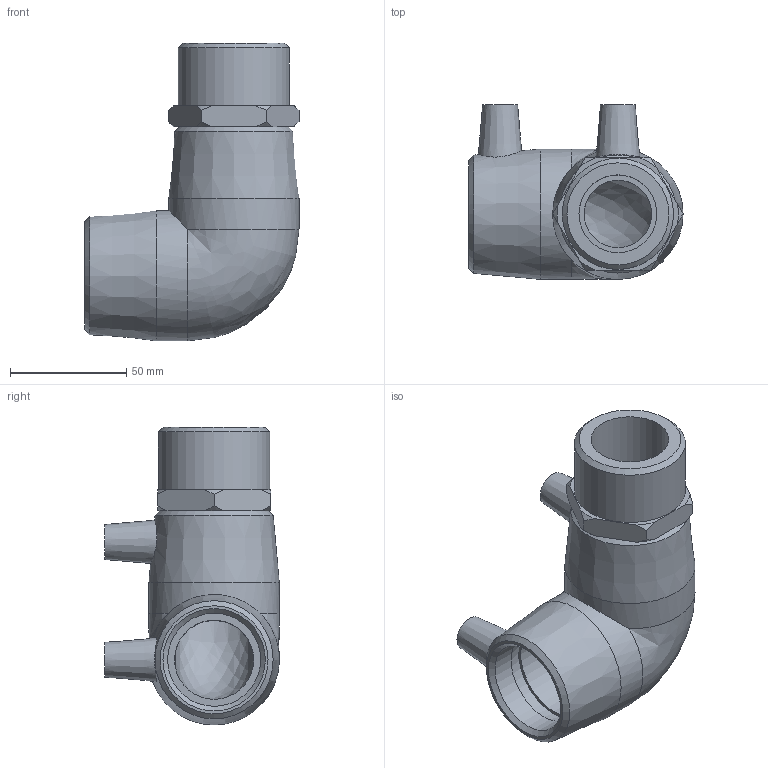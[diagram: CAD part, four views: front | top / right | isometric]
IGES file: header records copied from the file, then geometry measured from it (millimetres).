
Global section: file name: 492504040015.ipt; native system: Autodesk Inventor 2015; preprocessor: unknown; author: KIM; date: 20200202.122343; units: millimetre
Bounding box: 92 x 75 x 128 mm (x, y, z)
Volume: 208346.1 mm3; surface area: 51217 mm2
Topology: 1 solids, 2 shells, 59 faces, 143 edges, 96 vertices
Faces by surface type: plane 22, cone 19, revolution 10, cylinder 7, bspline 1
Full cylindrical faces by diameter (mm): 4 x2, 40 x2, 47.803 x1, 56 x2
